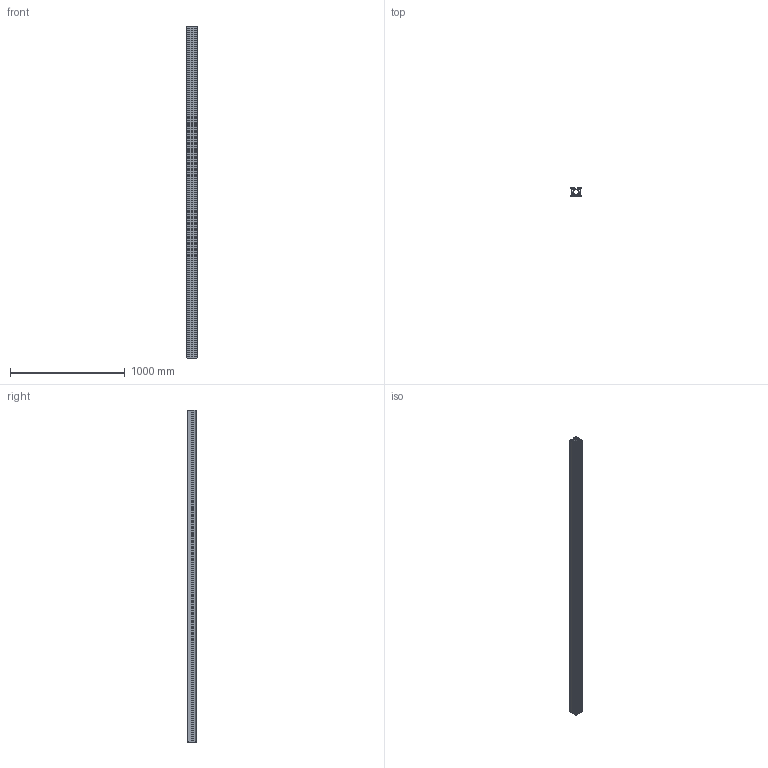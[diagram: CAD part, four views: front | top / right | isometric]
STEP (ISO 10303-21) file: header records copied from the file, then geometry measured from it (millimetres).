
FILE_DESCRIPTION (( 'STEP AP203' ), '1' );
FILE_NAME ('_-_MLF 4 2898 mm lang.step', '2005-09-01T12:46:41', ( ' ' ), ( ' ' ), 'SwSTEP 2.0', 'SolidWorks 2005187', '' );
FILE_SCHEMA (( 'CONFIG_CONTROL_DESIGN' ));
Length unit declared in the file: millimetre
Products named in the file (1): _-_MLF 4  2898 mm lang
Bounding box: 87.56 x 80 x 2898 mm (x, y, z)
Volume: 6677407.7 mm3; surface area: 3579745.4 mm2
Topology: 1 solids, 1 shells, 248 faces, 762 edges, 500 vertices
Faces by surface type: plane 174, cylinder 74
Entity records: 8575 total; most frequent: ORIENTED_EDGE 1524, CARTESIAN_POINT 1511, DIRECTION 1408, EDGE_CURVE 762, VECTOR 614, LINE 614, VERTEX_POINT 500, AXIS2_PLACEMENT_3D 397
